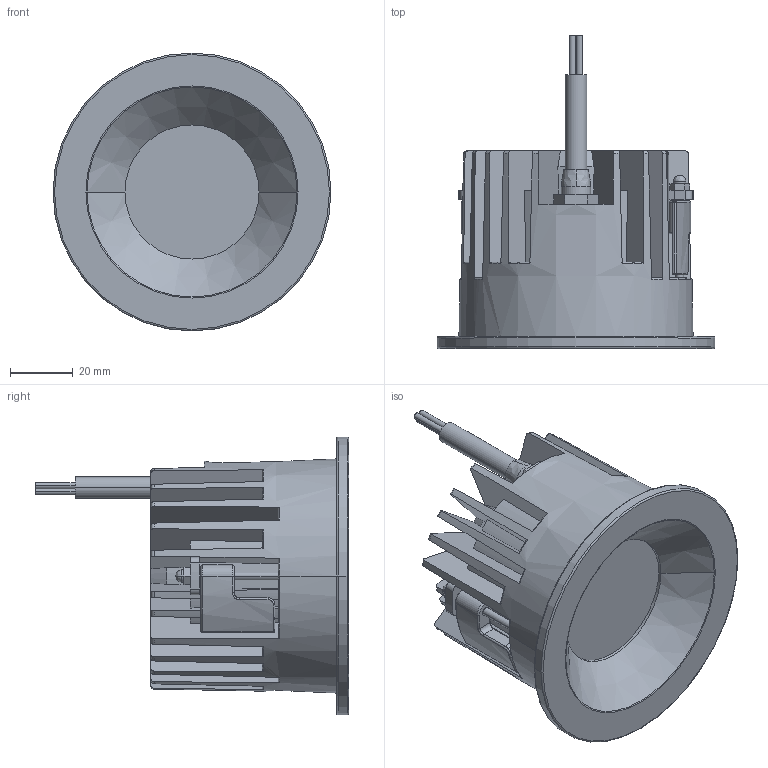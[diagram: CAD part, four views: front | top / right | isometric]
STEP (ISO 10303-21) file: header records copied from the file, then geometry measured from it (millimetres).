
FILE_DESCRIPTION((''),'2;1');
FILE_NAME('ASM0001_ASM','2025-12-19T14:45:30',('Administrator'),(''),'CREO PARAMETRIC BY PTC INC, 2021164','CREO PARAMETRIC BY PTC INC, 2021164','');
FILE_SCHEMA(('CONFIG_CONTROL_DESIGN','SHAPE_APPEARANCE_LAYERS_GROUPS'));
Length unit declared in the file: millimetre
Products named in the file (6): PRT0001; PRT0002; PRT0003; PRT0004; PRT0005; ASM0001_ASM
Assembly tree (5 placements, depth 2):
  ASM0001_ASM
    PRT0001
    PRT0002
    PRT0003
    PRT0004
    PRT0005
Bounding box: 88.3 x 99.5 x 88.3 mm (x, y, z)
Volume: 115480 mm3; surface area: 79200 mm2
Topology: 6 solids, 6 shells, 429 faces, 1112 edges, 714 vertices
Faces by surface type: plane 173, cylinder 135, torus 72, cone 27, bspline 14, sphere 8
Entity records: 20906 total; most frequent: CARTESIAN_POINT 4070, ORIENTED_EDGE 2224, DIRECTION 2138, PRESENTATION_STYLE_ASSIGNMENT 1545, STYLED_ITEM 1538, CURVE_STYLE 1112, EDGE_CURVE 1112, AXIS2_PLACEMENT_3D 885
